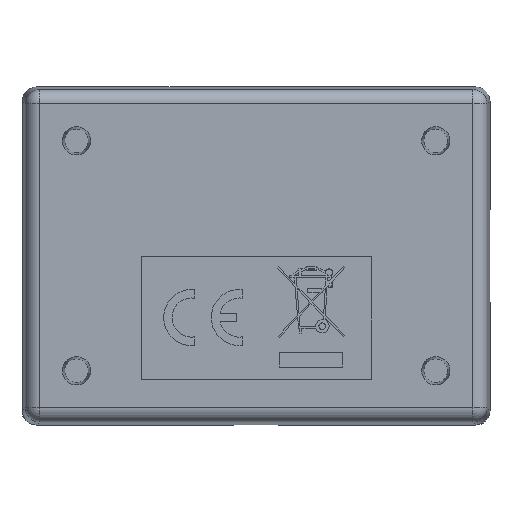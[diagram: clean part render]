
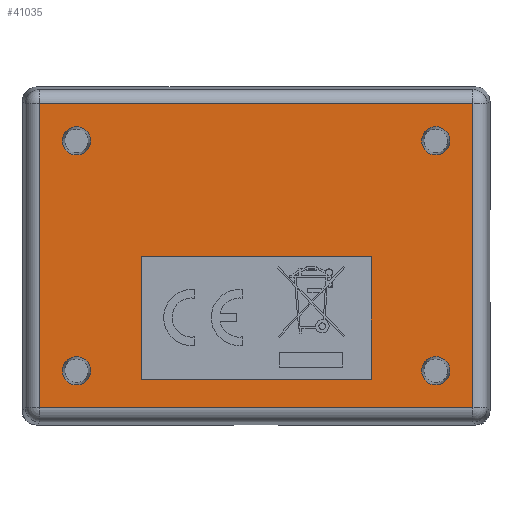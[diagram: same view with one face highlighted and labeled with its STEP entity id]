
A CAD part, front view. The second image highlights one B-rep face of the part: STEP entity #41035.
In plain terms, the highlighted planar face has unit normal (0, -1, 0) as drawn and (0, 0, -1) by its records, which use the part's own axes.
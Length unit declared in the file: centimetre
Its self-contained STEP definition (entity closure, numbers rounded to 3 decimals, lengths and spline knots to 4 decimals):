
#14819=CIRCLE('',#42582,0.1249);
#14820=CIRCLE('',#42583,0.1249);
#14821=CIRCLE('',#42584,0.1249);
#14822=CIRCLE('',#42585,0.1249);
#16451=VERTEX_POINT('',#53119);
#16452=VERTEX_POINT('',#53121);
#16454=VERTEX_POINT('',#53127);
#16456=VERTEX_POINT('',#53133);
#16577=VERTEX_POINT('',#54205);
#16578=VERTEX_POINT('',#54207);
#16579=VERTEX_POINT('',#54209);
#16580=VERTEX_POINT('',#54211);
#16581=VERTEX_POINT('',#54213);
#16582=VERTEX_POINT('',#54214);
#16583=VERTEX_POINT('',#54216);
#16584=VERTEX_POINT('',#54218);
#19260=VECTOR('',#45568,1.);
#19263=VECTOR('',#45572,1.);
#19266=VECTOR('',#45576,1.);
#19269=VECTOR('',#45580,1.);
#19430=VECTOR('',#45813,1.);
#19431=VECTOR('',#45814,1.);
#19432=VECTOR('',#45815,1.);
#19433=VECTOR('',#45816,1.);
#22398=LINE('',#53120,#19260);
#22401=LINE('',#53126,#19263);
#22404=LINE('',#53132,#19266);
#22407=LINE('',#53137,#19269);
#22568=LINE('',#54212,#19430);
#22569=LINE('',#54215,#19431);
#22570=LINE('',#54217,#19432);
#22571=LINE('',#54219,#19433);
#25625=EDGE_CURVE('',#16452,#16451,#22398,.F.);
#25628=EDGE_CURVE('',#16454,#16452,#22401,.F.);
#25631=EDGE_CURVE('',#16456,#16454,#22404,.F.);
#25634=EDGE_CURVE('',#16451,#16456,#22407,.F.);
#25815=EDGE_CURVE('',#16577,#16577,#14819,.F.);
#25816=EDGE_CURVE('',#16578,#16578,#14820,.F.);
#25817=EDGE_CURVE('',#16579,#16579,#14821,.F.);
#25818=EDGE_CURVE('',#16580,#16580,#14822,.F.);
#25819=EDGE_CURVE('',#16581,#16582,#22568,.T.);
#25820=EDGE_CURVE('',#16583,#16581,#22569,.T.);
#25821=EDGE_CURVE('',#16584,#16583,#22570,.T.);
#25822=EDGE_CURVE('',#16582,#16584,#22571,.T.);
#30746=ORIENTED_EDGE('',*,*,#25815,.T.);
#30747=ORIENTED_EDGE('',*,*,#25816,.T.);
#30748=ORIENTED_EDGE('',*,*,#25817,.T.);
#30749=ORIENTED_EDGE('',*,*,#25818,.T.);
#30750=ORIENTED_EDGE('',*,*,#25819,.F.);
#30751=ORIENTED_EDGE('',*,*,#25820,.F.);
#30752=ORIENTED_EDGE('',*,*,#25821,.F.);
#30753=ORIENTED_EDGE('',*,*,#25822,.F.);
#30754=ORIENTED_EDGE('',*,*,#25625,.T.);
#30755=ORIENTED_EDGE('',*,*,#25634,.T.);
#30756=ORIENTED_EDGE('',*,*,#25631,.T.);
#30757=ORIENTED_EDGE('',*,*,#25628,.T.);
#37751=EDGE_LOOP('',(#30746));
#37752=EDGE_LOOP('',(#30747));
#37753=EDGE_LOOP('',(#30748));
#37754=EDGE_LOOP('',(#30749));
#37755=EDGE_LOOP('',(#30750,#30751,#30752,#30753));
#37756=EDGE_LOOP('',(#30754,#30755,#30756,#30757));
#39404=FACE_BOUND('',#37751,.T.);
#39405=FACE_BOUND('',#37752,.T.);
#39406=FACE_BOUND('',#37753,.T.);
#39407=FACE_BOUND('',#37754,.T.);
#39408=FACE_BOUND('',#37755,.T.);
#39409=FACE_BOUND('',#37756,.T.);
#41035=ADVANCED_FACE('',(#39404,#39405,#39406,#39407,#39408,#39409),#64203,
 .F.);
#42581=AXIS2_PLACEMENT_3D('',#54203,#45804,$);
#42582=AXIS2_PLACEMENT_3D('',#54204,#45805,#45806);
#42583=AXIS2_PLACEMENT_3D('',#54206,#45807,#45808);
#42584=AXIS2_PLACEMENT_3D('',#54208,#45809,#45810);
#42585=AXIS2_PLACEMENT_3D('',#54210,#45811,#45812);
#45568=DIRECTION('',(-1.,0.,0.));
#45572=DIRECTION('',(0.,1.,0.));
#45576=DIRECTION('',(1.,0.,0.));
#45580=DIRECTION('',(0.,-1.,0.));
#45804=DIRECTION('',(0.,0.,1.));
#45805=DIRECTION('',(0.,0.,-1.));
#45806=DIRECTION('',(-0.125,0.,0.));
#45807=DIRECTION('',(0.,0.,-1.));
#45808=DIRECTION('',(-0.125,0.,0.));
#45809=DIRECTION('',(0.,0.,-1.));
#45810=DIRECTION('',(-0.125,0.,0.));
#45811=DIRECTION('',(0.,0.,-1.));
#45812=DIRECTION('',(-0.125,0.,0.));
#45813=DIRECTION('',(-1.,0.,0.));
#45814=DIRECTION('',(0.,1.,0.));
#45815=DIRECTION('',(1.,0.,0.));
#45816=DIRECTION('',(0.,-1.,0.));
#53119=CARTESIAN_POINT('',(1.091,-1.0176,-0.0032));
#53120=CARTESIAN_POINT('',(0.1374,-1.0176,-0.0032));
#53121=CARTESIAN_POINT('',(0.0083,-1.0176,-0.0032));
#53126=CARTESIAN_POINT('',(0.0083,0.,-0.0032));
#53127=CARTESIAN_POINT('',(0.0083,1.0176,-0.0032));
#53132=CARTESIAN_POINT('',(0.1374,1.0176,-0.0032));
#53133=CARTESIAN_POINT('',(1.091,1.0176,-0.0032));
#53137=CARTESIAN_POINT('',(1.091,0.,-0.0032));
#54203=CARTESIAN_POINT('',(0.,0.,-0.0032));
#54204=CARTESIAN_POINT('',(1.016,1.5875,-0.0032));
#54205=CARTESIAN_POINT('',(1.1409,1.5875,-0.0032));
#54206=CARTESIAN_POINT('',(1.016,-1.5875,-0.0032));
#54207=CARTESIAN_POINT('',(1.1409,-1.5875,-0.0032));
#54208=CARTESIAN_POINT('',(-1.016,-1.5875,-0.0032));
#54209=CARTESIAN_POINT('',(-0.8911,-1.5875,-0.0032));
#54210=CARTESIAN_POINT('',(-1.016,1.5875,-0.0032));
#54211=CARTESIAN_POINT('',(-0.8911,1.5875,-0.0032));
#54212=CARTESIAN_POINT('',(0.,1.9149,-0.0032));
#54213=CARTESIAN_POINT('',(1.3434,1.9149,-0.0032));
#54214=CARTESIAN_POINT('',(-1.3434,1.9149,-0.0032));
#54215=CARTESIAN_POINT('',(1.3434,0.,-0.0032));
#54216=CARTESIAN_POINT('',(1.3434,-1.9149,-0.0032));
#54217=CARTESIAN_POINT('',(0.,-1.9149,-0.0032));
#54218=CARTESIAN_POINT('',(-1.3434,-1.9149,-0.0032));
#54219=CARTESIAN_POINT('',(-1.3434,0.,-0.0032));
#64203=PLANE('',#42581);
